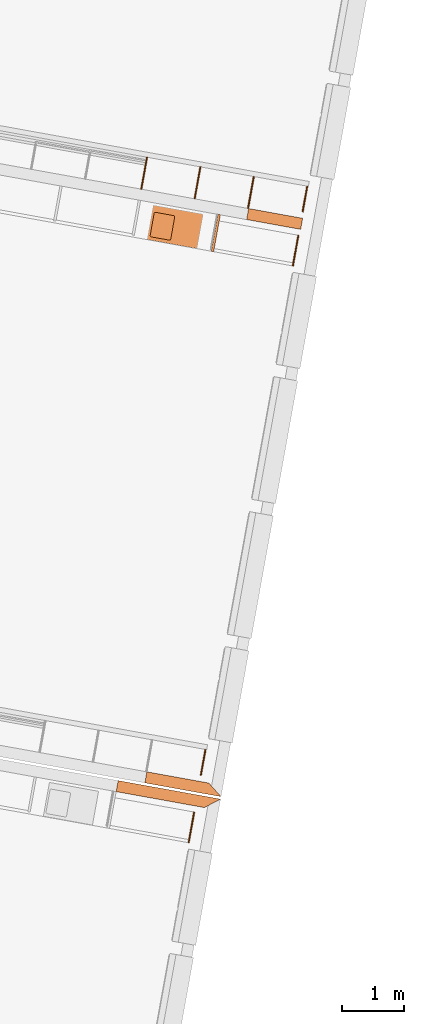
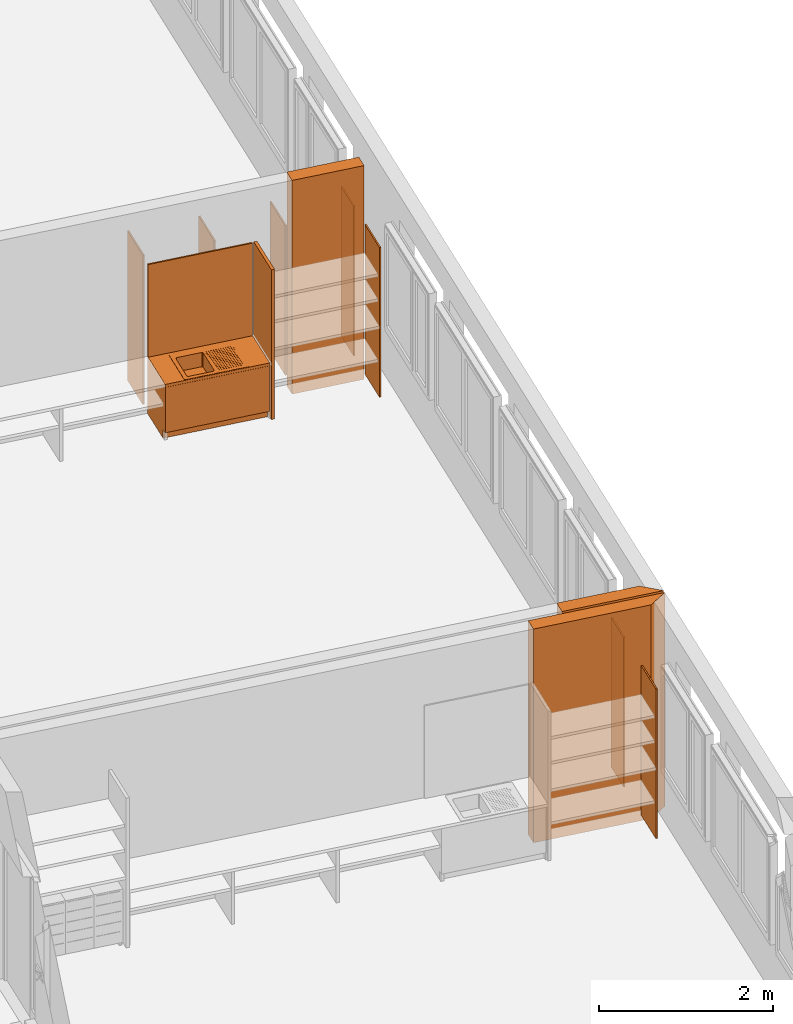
# One storey, part 23 of 52: 12 proxies.
"""IFC2X3 building model written with IfcOpenShell, lengths in metres."""

from ifc_helpers import new_model, entity, si_unit, converted_unit, derived_unit, money_unit, direction, frame, origin_with_axes, place, context, subcontext, project, spatial, polyline, outline, extrude, open_shell, faceted_brep, surface_model, source, transform, mapped, material, type_object, element, save


model = new_model("IFC2X3")

# Units and contexts
model_context = context("Model", 3, precision=1e-05, world=origin_with_axes(), true_north=direction((0.0, 1.0)))
body_context = subcontext(model_context, "Body", "Model", "MODEL_VIEW")
ifc_project = project(units=[si_unit("LENGTHUNIT", "METRE"), si_unit("AREAUNIT", "SQUARE_METRE"), si_unit("VOLUMEUNIT", "CUBIC_METRE"), converted_unit("PLANEANGLEUNIT", "DEGREE", entity("IfcPlaneAngleMeasure", 0.0174532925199), si_unit("PLANEANGLEUNIT", "RADIAN"), dimensions=[0, 0, 0, 0, 0, 0, 0]), money_unit("CHF"), converted_unit("TIMEUNIT", "Year", entity("IfcTimeMeasure", 31556926.0), si_unit("TIMEUNIT", "SECOND"), dimensions=[0, 0, 1, 0, 0, 0, 0]), si_unit("MASSUNIT", "GRAM", prefix="KILO"), si_unit("THERMODYNAMICTEMPERATUREUNIT", "DEGREE_CELSIUS"), si_unit("LUMINOUSINTENSITYUNIT", "LUMEN"), si_unit("ENERGYUNIT", "JOULE", prefix="MEGA"), derived_unit("THERMALCONDUCTANCEUNIT", [(si_unit("POWERUNIT", "WATT"), 1), (si_unit("LENGTHUNIT", "METRE"), -1), (si_unit("THERMODYNAMICTEMPERATUREUNIT", "KELVIN"), -1)]), derived_unit("SPECIFICHEATCAPACITYUNIT", [(si_unit("ENERGYUNIT", "JOULE"), 1), (si_unit("MASSUNIT", "GRAM", prefix="KILO"), -1), (si_unit("THERMODYNAMICTEMPERATUREUNIT", "KELVIN"), -1)]), derived_unit("MASSDENSITYUNIT", [(si_unit("MASSUNIT", "GRAM", prefix="KILO"), 1), (si_unit("VOLUMEUNIT", "CUBIC_METRE"), -1)])], contexts=[model_context])

# Site, building, storey
site_placement = place(None, frame((0.0, 0.0, 0.0), z_axis=(0.0, 0.0, 1.0), x_axis=(-0.177771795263, -0.984071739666, 0.0)))
site = spatial("IfcSite", under=ifc_project, at=site_placement, Name="Site", CompositionType="ELEMENT")
building_placement = place(site_placement, origin_with_axes())
building = spatial("IfcBuilding", under=site, at=building_placement, Name="Bâtiment", CompositionType="ELEMENT")
storey_placement = place(building_placement, frame((0.0, 0.0, 3.2), z_axis=(0.0, 0.0, 1.0), x_axis=(1.0, 0.0, 0.0)))
storey = spatial("IfcBuildingStorey", under=building, at=storey_placement, Name="R+1", CompositionType="ELEMENT", Elevation=3.2)

# Proxies
ifc_material_1 = material(Name="_panneau mélaminé")
building_element_proxy_type_1 = type_object("IfcBuildingElementProxyType", Name="_panneau mélaminé 40", PredefinedType="NOTDEFINED")
proxy_1_placement = place(storey_placement, frame((119.884841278, -149.826151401, 0.0), z_axis=(0.0, 0.0, 1.0), x_axis=(-1.0, 0.0, 0.0)))
element("IfcBuildingElementProxy", 1, at=proxy_1_placement, inside=storey, type_object=building_element_proxy_type_1, material=ifc_material_1, Name="cloison-fd-classe D", context=body_context, shape_type="SweptSolid", body=[
    extrude(outline(polyline([(0.0, -0.04), (0.600000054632, -0.04), (0.600000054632, 0.0), (0.0, 0.0), (0.0, -0.04)])), origin_with_axes(), (0.0, 0.0, 1.0), 2.1),
])
building_element_proxy_type_2 = type_object("IfcBuildingElementProxyType", Name="_panneau mélaminé 19", PredefinedType="NOTDEFINED")
proxy_2_placement = place(storey_placement, frame((119.10484124, -150.237651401, 0.0), z_axis=(0.0, 0.0, 1.0), x_axis=(-1.0, 0.0, 0.0)))
element("IfcBuildingElementProxy", 2, at=proxy_2_placement, inside=storey, type_object=building_element_proxy_type_2, material=ifc_material_1, Name="cloison pl-classe", context=body_context, shape_type="SweptSolid", body=[
    extrude(outline(polyline([(0.0, -0.0095), (0.519999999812, -0.0095), (0.519999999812, 0.0095), (0.0, 0.0095), (0.0, -0.0095)])), origin_with_axes(), (0.0, 0.0, 1.0), 2.1),
])
proxy_3_placement = place(storey_placement, frame((129.284841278, -148.506151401, 0.0), z_axis=(0.0, 0.0, 1.0), x_axis=(-1.0, 0.0, 0.0)))
element("IfcBuildingElementProxy", 3, at=proxy_3_placement, inside=storey, type_object=building_element_proxy_type_2, material=ifc_material_1, Name="cloison-fd-classe D", context=body_context, shape_type="SweptSolid", body=[
    extrude(outline(polyline([(0.0, -0.019), (0.500000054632, -0.019), (0.500000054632, 0.0), (0.0, 0.0), (0.0, -0.019)])), origin_with_axes(), (0.0, 0.0, 1.0), 2.1),
])
for number, where, z_axis, x_axis, name in (
    (4, (128.184841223, -148.506151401, 0.0), (0.0, 0.0, 1.0), (-1.0, 0.0, 0.0), "cloison pl-classe"),
    (5, (119.004841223, -148.506151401, 0.0), (0.0, 0.0, 1.0), (-1.0, 0.0, 0.0), "cloison pl-classe"),
):
    element("IfcBuildingElementProxy", number, at=place(storey_placement, frame(where, z_axis=z_axis, x_axis=x_axis)), inside=storey, type_object=building_element_proxy_type_2, material=ifc_material_1, Name=name, context=body_context, shape_type="SweptSolid", body=[
        extrude(outline(polyline([(0.0, -0.019), (0.419999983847, -0.019), (0.419999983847, 0.0), (0.0, 0.0), (0.0, -0.019)])), origin_with_axes(), (0.0, 0.0, 1.0), 2.1),
    ])
proxy_4_placement = place(storey_placement, frame((119.10484124, -149.367651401, 0.0), z_axis=(0.0, 0.0, 1.0), x_axis=(-1.0, 0.0, 0.0)))
element("IfcBuildingElementProxy", 6, at=proxy_4_placement, inside=storey, type_object=building_element_proxy_type_2, material=ifc_material_1, Name="cloison pl-classe", context=body_context, shape_type="SweptSolid", body=[
    extrude(outline(polyline([(0.0, -0.0095), (0.519999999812, -0.0095), (0.519999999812, 0.0095), (0.0, 0.0095), (0.0, -0.0095)])), origin_with_axes(), (0.0, 0.0, 1.0), 2.1),
])
proxy_5_placement = place(storey_placement, frame((119.104841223, -151.107651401, 0.0), z_axis=(0.0, 0.0, 1.0), x_axis=(-1.0, 0.0, 0.0)))
element("IfcBuildingElementProxy", 7, at=proxy_5_placement, inside=storey, type_object=building_element_proxy_type_2, material=ifc_material_1, Name="cloison pl-classe", context=body_context, shape_type="SweptSolid", body=[
    extrude(outline(polyline([(0.0, -0.0095), (0.519999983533, -0.0095), (0.519999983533, 0.0095), (0.0, 0.0095), (0.0, -0.0095)])), origin_with_axes(), (0.0, 0.0, 1.0), 2.1),
])
proxy_6_placement = place(storey_placement, frame((119.884841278, -148.506151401, 0.0), z_axis=(0.0, 0.0, 1.0), x_axis=(-1.0, 0.0, 0.0)))
element("IfcBuildingElementProxy", 8, at=proxy_6_placement, inside=storey, type_object=building_element_proxy_type_2, material=ifc_material_1, Name="cloison-fd-classe D", context=body_context, shape_type="SweptSolid", body=[
    extrude(outline(polyline([(0.0, -0.019), (0.500000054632, -0.019), (0.500000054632, 0.0), (0.0, 0.0), (0.0, -0.019)])), origin_with_axes(), (0.0, 0.0, 1.0), 2.1),
])
ifc_material_2 = material(Name="_BA banché RAL9007")
building_element_proxy_type_3 = type_object("IfcBuildingElementProxyType", Name="_M ext 18 +10 gris 280", PredefinedType="NOTDEFINED")
proxy_7_placement = place(storey_placement, frame((128.504841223, -149.786151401, -0.15), z_axis=(0.0, 0.0, 1.0), x_axis=(0.0, 1.0, 0.0)))
element("IfcBuildingElementProxy", 9, at=proxy_7_placement, inside=storey, type_object=building_element_proxy_type_3, material=ifc_material_2, Name="M retour_isol", context=body_context, shape_type="SweptSolid", body=[
    extrude(outline(polyline([(0.0, -0.18), (1.43757153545, -0.18), (1.66900010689, 0.0), (0.0, 0.0), (0.0, -0.18)])), origin_with_axes(), (0.0, 0.0, 1.0), 3.0),
])
proxy_8_placement = place(storey_placement, frame((128.464841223, -149.358151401, 0.0), z_axis=(0.0, 0.0, 1.0), x_axis=(0.0, 1.0, 0.0)))
element("IfcBuildingElementProxy", 10, at=proxy_8_placement, inside=storey, type_object=building_element_proxy_type_3, material=ifc_material_2, Name="M retour_isol", context=body_context, shape_type="SweptSolid", body=[
    extrude(outline(polyline([(0.0, 0.0), (1.24100000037, 0.0), (1.00957142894, 0.18), (0.0, 0.18), (0.0, 0.0)])), origin_with_axes(), (0.0, 0.0, 1.0), 2.85),
])
proxy_9_placement = place(storey_placement, frame((119.284841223, -149.358151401, -0.15), z_axis=(0.0, 0.0, 1.0), x_axis=(0.0, 1.0, 0.0)))
element("IfcBuildingElementProxy", 11, at=proxy_9_placement, inside=storey, type_object=building_element_proxy_type_3, material=ifc_material_2, Name="M retour_isol", context=body_context, shape_type="SweptSolid", body=[
    extrude(outline(polyline([(0.0, 0.0), (0.881000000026, 0.0), (0.88100000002, 0.18), (0.0, 0.18), (0.0, 0.0)])), origin_with_axes(), (0.0, 0.0, 1.0), 3.0),
])
ifc_material_3 = material(Name="Matériau de construction IFC")
building_element_proxy_type_4 = type_object("IfcBuildingElementProxyType", Name="Elément simple avec deux portes 21", PredefinedType="NOTDEFINED")
shared_shape = source(origin_with_axes(), body_context, "Body", "SurfaceModel", [
    surface_model("IfcShellBasedSurfaceModel", [(0.5, 0.600000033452, 0.733), (0.496505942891, 0.600000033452, 0.733460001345), (0.496505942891, 0.620000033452, 0.733460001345), (0.5, 0.620000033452, 0.733), (0.49325, 0.600000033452, 0.734808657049), (0.49325, 0.620000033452, 0.734808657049), (0.503494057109, 0.600000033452, 0.733460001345), (0.503494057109, 0.620000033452, 0.733460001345), (0.490454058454, 0.600000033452, 0.736954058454), (0.490454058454, 0.620000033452, 0.736954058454), (0.50675, 0.600000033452, 0.734808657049), (0.50675, 0.620000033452, 0.734808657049), (0.488308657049, 0.600000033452, 0.73975), (0.488308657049, 0.620000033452, 0.73975), (0.509545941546, 0.600000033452, 0.736954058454), (0.509545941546, 0.620000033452, 0.736954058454), (0.486960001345, 0.600000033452, 0.743005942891), (0.486960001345, 0.620000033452, 0.743005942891), (0.511691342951, 0.600000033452, 0.73975), (0.511691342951, 0.620000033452, 0.73975), (0.4865, 0.600000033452, 0.7465), (0.4865, 0.620000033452, 0.7465), (0.513039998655, 0.600000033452, 0.743005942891), (0.513039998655, 0.620000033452, 0.743005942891), (0.486960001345, 0.600000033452, 0.749994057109), (0.486960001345, 0.620000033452, 0.749994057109), (0.5135, 0.600000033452, 0.7465), (0.5135, 0.620000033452, 0.7465), (0.488308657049, 0.600000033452, 0.75325), (0.488308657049, 0.620000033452, 0.75325), (0.513039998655, 0.600000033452, 0.749994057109), (0.513039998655, 0.620000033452, 0.749994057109), (0.490454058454, 0.600000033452, 0.756045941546), (0.490454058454, 0.620000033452, 0.756045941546), (0.511691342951, 0.600000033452, 0.75325), (0.511691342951, 0.620000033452, 0.75325), (0.49325, 0.600000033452, 0.758191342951), (0.49325, 0.620000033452, 0.758191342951), (0.509545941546, 0.600000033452, 0.756045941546), (0.509545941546, 0.620000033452, 0.756045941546), (0.496505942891, 0.600000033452, 0.759539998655), (0.496505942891, 0.620000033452, 0.759539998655), (0.50675, 0.600000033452, 0.758191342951), (0.50675, 0.620000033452, 0.758191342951), (0.5, 0.600000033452, 0.76), (0.5, 0.620000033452, 0.76), (0.503494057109, 0.600000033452, 0.759539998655), (0.503494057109, 0.620000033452, 0.759539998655)], [open_shell([[[0, 1, 2, 3]], [[1, 4, 5, 2]], [[6, 0, 3, 7]], [[4, 8, 9, 5]], [[10, 6, 7, 11]], [[8, 12, 13, 9]], [[14, 10, 11, 15]], [[12, 16, 17, 13]], [[18, 14, 15, 19]], [[16, 20, 21, 17]], [[22, 18, 19, 23]], [[20, 24, 25, 21]], [[26, 22, 23, 27]], [[24, 28, 29, 25]], [[30, 26, 27, 31]], [[28, 32, 33, 29]], [[34, 30, 31, 35]], [[32, 36, 37, 33]], [[38, 34, 35, 39]], [[36, 40, 41, 37]], [[42, 38, 39, 43]], [[40, 44, 45, 41]], [[46, 42, 43, 47]], [[44, 46, 47, 45]]])]),
    surface_model("IfcShellBasedSurfaceModel", [(0.7, 0.600000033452, 0.733), (0.696505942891, 0.600000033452, 0.733460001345), (0.696505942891, 0.620000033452, 0.733460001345), (0.7, 0.620000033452, 0.733), (0.69325, 0.600000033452, 0.734808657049), (0.69325, 0.620000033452, 0.734808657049), (0.703494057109, 0.600000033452, 0.733460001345), (0.703494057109, 0.620000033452, 0.733460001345), (0.690454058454, 0.600000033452, 0.736954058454), (0.690454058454, 0.620000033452, 0.736954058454), (0.70675, 0.600000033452, 0.734808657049), (0.70675, 0.620000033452, 0.734808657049), (0.688308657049, 0.600000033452, 0.73975), (0.688308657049, 0.620000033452, 0.73975), (0.709545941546, 0.600000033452, 0.736954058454), (0.709545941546, 0.620000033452, 0.736954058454), (0.686960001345, 0.600000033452, 0.743005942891), (0.686960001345, 0.620000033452, 0.743005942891), (0.711691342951, 0.600000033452, 0.73975), (0.711691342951, 0.620000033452, 0.73975), (0.6865, 0.600000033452, 0.7465), (0.6865, 0.620000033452, 0.7465), (0.713039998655, 0.600000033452, 0.743005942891), (0.713039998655, 0.620000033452, 0.743005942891), (0.686960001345, 0.600000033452, 0.749994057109), (0.686960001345, 0.620000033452, 0.749994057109), (0.7135, 0.600000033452, 0.7465), (0.7135, 0.620000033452, 0.7465), (0.688308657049, 0.600000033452, 0.75325), (0.688308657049, 0.620000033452, 0.75325), (0.713039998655, 0.600000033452, 0.749994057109), (0.713039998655, 0.620000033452, 0.749994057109), (0.690454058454, 0.600000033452, 0.756045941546), (0.690454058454, 0.620000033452, 0.756045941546), (0.711691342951, 0.600000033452, 0.75325), (0.711691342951, 0.620000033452, 0.75325), (0.69325, 0.600000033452, 0.758191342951), (0.69325, 0.620000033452, 0.758191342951), (0.709545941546, 0.600000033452, 0.756045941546), (0.709545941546, 0.620000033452, 0.756045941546), (0.696505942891, 0.600000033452, 0.759539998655), (0.696505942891, 0.620000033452, 0.759539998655), (0.70675, 0.600000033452, 0.758191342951), (0.70675, 0.620000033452, 0.758191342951), (0.7, 0.600000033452, 0.76), (0.7, 0.620000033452, 0.76), (0.703494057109, 0.600000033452, 0.759539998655), (0.703494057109, 0.620000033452, 0.759539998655)], [open_shell([[[0, 1, 2, 3]], [[1, 4, 5, 2]], [[6, 0, 3, 7]], [[4, 8, 9, 5]], [[10, 6, 7, 11]], [[8, 12, 13, 9]], [[14, 10, 11, 15]], [[12, 16, 17, 13]], [[18, 14, 15, 19]], [[16, 20, 21, 17]], [[22, 18, 19, 23]], [[20, 24, 25, 21]], [[26, 22, 23, 27]], [[24, 28, 29, 25]], [[30, 26, 27, 31]], [[28, 32, 33, 29]], [[34, 30, 31, 35]], [[32, 36, 37, 33]], [[38, 34, 35, 39]], [[36, 40, 41, 37]], [[42, 38, 39, 43]], [[40, 44, 45, 41]], [[46, 42, 43, 47]], [[44, 46, 47, 45]]])]),
    surface_model("IfcShellBasedSurfaceModel", [(0.6, 0.600000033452, 0.579), (0.594564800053, 0.600000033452, 0.579715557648), (0.594564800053, 0.620000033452, 0.579715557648), (0.6, 0.620000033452, 0.579), (0.5895, 0.600000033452, 0.581813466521), (0.5895, 0.620000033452, 0.581813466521), (0.605435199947, 0.600000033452, 0.579715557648), (0.605435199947, 0.620000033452, 0.579715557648), (0.585150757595, 0.600000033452, 0.585150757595), (0.585150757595, 0.620000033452, 0.585150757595), (0.6105, 0.600000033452, 0.581813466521), (0.6105, 0.620000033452, 0.581813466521), (0.581813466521, 0.600000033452, 0.5895), (0.581813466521, 0.620000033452, 0.5895), (0.614849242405, 0.600000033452, 0.585150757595), (0.614849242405, 0.620000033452, 0.585150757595), (0.579715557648, 0.600000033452, 0.594564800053), (0.579715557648, 0.620000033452, 0.594564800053), (0.618186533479, 0.600000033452, 0.5895), (0.618186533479, 0.620000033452, 0.5895), (0.579, 0.600000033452, 0.6), (0.579, 0.620000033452, 0.6), (0.620284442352, 0.600000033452, 0.594564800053), (0.620284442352, 0.620000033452, 0.594564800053), (0.579715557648, 0.600000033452, 0.605435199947), (0.579715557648, 0.620000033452, 0.605435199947), (0.621, 0.600000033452, 0.6), (0.621, 0.620000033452, 0.6), (0.581813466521, 0.600000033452, 0.6105), (0.581813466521, 0.620000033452, 0.6105), (0.620284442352, 0.600000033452, 0.605435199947), (0.620284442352, 0.620000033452, 0.605435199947), (0.585150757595, 0.600000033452, 0.614849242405), (0.585150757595, 0.620000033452, 0.614849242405), (0.618186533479, 0.600000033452, 0.6105), (0.618186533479, 0.620000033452, 0.6105), (0.5895, 0.600000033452, 0.618186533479), (0.5895, 0.620000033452, 0.618186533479), (0.614849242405, 0.600000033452, 0.614849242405), (0.614849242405, 0.620000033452, 0.614849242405), (0.594564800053, 0.600000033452, 0.620284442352), (0.594564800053, 0.620000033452, 0.620284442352), (0.6105, 0.600000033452, 0.618186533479), (0.6105, 0.620000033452, 0.618186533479), (0.6, 0.600000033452, 0.621), (0.6, 0.620000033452, 0.621), (0.605435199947, 0.600000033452, 0.620284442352), (0.605435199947, 0.620000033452, 0.620284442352)], [open_shell([[[0, 1, 2, 3]], [[1, 4, 5, 2]], [[6, 0, 3, 7]], [[4, 8, 9, 5]], [[10, 6, 7, 11]], [[8, 12, 13, 9]], [[14, 10, 11, 15]], [[12, 16, 17, 13]], [[18, 14, 15, 19]], [[16, 20, 21, 17]], [[22, 18, 19, 23]], [[20, 24, 25, 21]], [[26, 22, 23, 27]], [[24, 28, 29, 25]], [[30, 26, 27, 31]], [[28, 32, 33, 29]], [[34, 30, 31, 35]], [[32, 36, 37, 33]], [[38, 34, 35, 39]], [[36, 40, 41, 37]], [[42, 38, 39, 43]], [[40, 44, 45, 41]], [[46, 42, 43, 47]], [[44, 46, 47, 45]]])]),
    faceted_brep([(0.0, 0.07, 0.0), (1.278, 0.07, 0.0), (1.278, 0.07, 0.12), (0.0, 0.07, 0.12), (0.0, 0.600000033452, 0.0), (1.278, 0.600000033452, 0.0), (1.278, 0.600000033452, 0.12), (0.0, 0.600000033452, 0.12)], [[[0, 1, 2, 3]], [[0, 4, 5, 1]], [[1, 5, 6, 2]], [[3, 2, 6, 7]], [[4, 0, 3, 7]], [[5, 4, 7, 6]]]),
    faceted_brep([(0.0, 0.02, 0.12), (0.02, 0.02, 0.12), (0.02, 0.02, 0.14), (0.0, 0.02, 0.14), (0.0, 0.600000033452, 0.12), (0.02, 0.600000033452, 0.12), (1.258, 0.600000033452, 0.12), (1.278, 0.600000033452, 0.12), (1.278, 0.02, 0.12), (1.258, 0.02, 0.12), (1.258, 0.02, 0.14), (1.278, 0.02, 0.14), (1.278, 0.600000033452, 0.14), (1.258, 0.600000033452, 0.14), (0.02, 0.600000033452, 0.14), (0.0, 0.600000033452, 0.14)], [[[0, 1, 2, 3]], [[0, 4, 5, 6, 7, 8, 9, 1]], [[1, 9, 10, 2]], [[3, 2, 10, 11, 12, 13, 14, 15]], [[4, 0, 3, 15]], [[5, 4, 15, 14]], [[6, 5, 14, 13]], [[7, 6, 13, 12]], [[8, 7, 12, 11]], [[9, 8, 11, 10]]]),
    faceted_brep([(0.0, 0.02, 0.14), (0.02, 0.02, 0.14), (0.02, 0.02, 0.76), (0.0, 0.02, 0.76), (0.0, 0.600000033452, 0.14), (1.278, 0.600000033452, 0.14), (1.278, 0.02, 0.14), (1.258, 0.02, 0.14), (1.258, 0.580000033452, 0.14), (0.02, 0.580000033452, 0.14), (0.02, 0.580000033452, 0.76), (1.258, 0.580000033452, 0.76), (1.258, 0.02, 0.76), (1.278, 0.02, 0.76), (1.278, 0.600000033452, 0.76), (0.0, 0.600000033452, 0.76)], [[[0, 1, 2, 3]], [[0, 4, 5, 6, 7, 8, 9, 1]], [[1, 9, 10, 2]], [[3, 2, 10, 11, 12, 13, 14, 15]], [[4, 0, 3, 15]], [[5, 4, 15, 14]], [[6, 5, 14, 13]], [[7, 6, 13, 12]], [[8, 7, 12, 11]], [[9, 8, 11, 10]]]),
    faceted_brep([(1.258, 0.02, 0.41), (1.258, 0.580000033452, 0.41), (1.258, 0.580000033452, 0.43), (1.258, 0.02, 0.43), (0.02, 0.02, 0.41), (0.02, 0.580000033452, 0.41), (0.02, 0.580000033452, 0.43), (0.02, 0.02, 0.43)], [[[0, 1, 2, 3]], [[0, 4, 5, 1]], [[1, 5, 6, 2]], [[3, 2, 6, 7]], [[4, 0, 3, 7]], [[5, 4, 7, 6]]]),
    surface_model("IfcShellBasedSurfaceModel", [(0.309, 0.0550000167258, 0.605), (0.604, 0.0550000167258, 0.605), (0.604, 0.0550000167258, 0.8), (0.309, 0.0550000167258, 0.8), (0.299, 0.0576795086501, 0.605), (0.291679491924, 0.0650000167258, 0.605), (0.289, 0.0750000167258, 0.605), (0.289, 0.435000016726, 0.605), (0.291679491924, 0.445000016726, 0.605), (0.299, 0.452320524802, 0.605), (0.309, 0.455000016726, 0.605), (0.604, 0.455000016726, 0.605), (0.614, 0.452320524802, 0.605), (0.621320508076, 0.445000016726, 0.605), (0.624, 0.435000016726, 0.605), (0.624, 0.0750000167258, 0.605), (0.618142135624, 0.0608578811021, 0.605), (0.618142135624, 0.0608578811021, 0.8), (0.299, 0.0576795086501, 0.8), (0.291679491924, 0.0650000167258, 0.8), (0.289, 0.0750000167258, 0.8), (0.289, 0.435000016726, 0.8), (0.291679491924, 0.445000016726, 0.8), (0.299, 0.452320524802, 0.8), (0.309, 0.455000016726, 0.8), (0.604, 0.455000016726, 0.8), (0.614, 0.452320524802, 0.8), (0.621320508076, 0.445000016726, 0.8), (0.624, 0.435000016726, 0.8), (0.624, 0.0750000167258, 0.8)], [open_shell([[[0, 1, 2, 3]], [[0, 4, 5, 6, 7, 8, 9, 10, 11, 12, 13, 14, 15, 16, 1]], [[1, 16, 17, 2]], [[4, 0, 3, 18]], [[5, 4, 18, 19]], [[6, 5, 19, 20]], [[7, 6, 20, 21]], [[8, 7, 21, 22]], [[9, 8, 22, 23]], [[10, 9, 23, 24]], [[11, 10, 24, 25]], [[12, 11, 25, 26]], [[13, 12, 26, 27]], [[14, 13, 27, 28]], [[15, 14, 28, 29]], [[16, 15, 29, 17]]])]),
    faceted_brep([(0.259, 0.00500001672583, 0.8), (1.019, 0.00500001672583, 0.8), (1.019, 0.00500001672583, 0.805), (0.259, 0.00500001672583, 0.805), (0.249, 0.00767950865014, 0.8), (0.241679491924, 0.0150000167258, 0.8), (0.239, 0.0250000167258, 0.8), (0.239, 0.535000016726, 0.8), (0.241679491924, 0.545000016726, 0.8), (0.249, 0.552320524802, 0.8), (0.259, 0.555000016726, 0.8), (1.019, 0.555000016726, 0.8), (1.029, 0.552320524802, 0.8), (1.03632050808, 0.545000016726, 0.8), (1.039, 0.535000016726, 0.8), (1.039, 0.0250000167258, 0.8), (1.03314213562, 0.0108578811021, 0.8), (0.309, 0.0550000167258, 0.8), (0.604, 0.0550000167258, 0.8), (0.618142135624, 0.0608578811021, 0.8), (0.624, 0.0750000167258, 0.8), (0.624, 0.435000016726, 0.8), (0.621320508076, 0.445000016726, 0.8), (0.614, 0.452320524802, 0.8), (0.604, 0.455000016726, 0.8), (0.309, 0.455000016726, 0.8), (0.299, 0.452320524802, 0.8), (0.291679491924, 0.445000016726, 0.8), (0.289, 0.435000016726, 0.8), (0.289, 0.0750000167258, 0.8), (0.291679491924, 0.0650000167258, 0.8), (0.299, 0.0576795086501, 0.8), (1.03314213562, 0.0108578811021, 0.805), (1.039, 0.0250000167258, 0.805), (1.039, 0.535000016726, 0.805), (1.03632050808, 0.545000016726, 0.805), (1.029, 0.552320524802, 0.805), (1.019, 0.555000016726, 0.805), (0.259, 0.555000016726, 0.805), (0.249, 0.552320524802, 0.805), (0.241679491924, 0.545000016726, 0.805), (0.239, 0.535000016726, 0.805), (0.239, 0.0250000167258, 0.805), (0.241679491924, 0.0150000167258, 0.805), (0.249, 0.00767950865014, 0.805), (0.309, 0.0550000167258, 0.805), (0.299, 0.0576795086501, 0.805), (0.291679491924, 0.0650000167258, 0.805), (0.289, 0.0750000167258, 0.805), (0.289, 0.435000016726, 0.805), (0.291679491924, 0.445000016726, 0.805), (0.299, 0.452320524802, 0.805), (0.309, 0.455000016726, 0.805), (0.604, 0.455000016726, 0.805), (0.614, 0.452320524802, 0.805), (0.621320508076, 0.445000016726, 0.805), (0.624, 0.435000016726, 0.805), (0.624, 0.0750000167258, 0.805), (0.618142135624, 0.0608578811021, 0.805), (0.604, 0.0550000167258, 0.805)], [[[0, 1, 2, 3]], [[0, 4, 5, 6, 7, 8, 9, 10, 11, 12, 13, 14, 15, 16, 1], [17, 18, 19, 20, 21, 22, 23, 24, 25, 26, 27, 28, 29, 30, 31]], [[1, 16, 32, 2]], [[3, 2, 32, 33, 34, 35, 36, 37, 38, 39, 40, 41, 42, 43, 44], [45, 46, 47, 48, 49, 50, 51, 52, 53, 54, 55, 56, 57, 58, 59]], [[4, 0, 3, 44]], [[5, 4, 44, 43]], [[6, 5, 43, 42]], [[7, 6, 42, 41]], [[8, 7, 41, 40]], [[9, 8, 40, 39]], [[10, 9, 39, 38]], [[11, 10, 38, 37]], [[12, 11, 37, 36]], [[13, 12, 36, 35]], [[14, 13, 35, 34]], [[15, 14, 34, 33]], [[16, 15, 33, 32]], [[18, 17, 45, 59]], [[19, 18, 59, 58]], [[20, 19, 58, 57]], [[21, 20, 57, 56]], [[22, 21, 56, 55]], [[23, 22, 55, 54]], [[24, 23, 54, 53]], [[25, 24, 53, 52]], [[26, 25, 52, 51]], [[27, 26, 51, 50]], [[28, 27, 50, 49]], [[29, 28, 49, 48]], [[30, 29, 48, 47]], [[31, 30, 47, 46]], [[17, 31, 46, 45]]]),
    faceted_brep([(0.654, 0.0600000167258, 0.805), (0.959, 0.0600000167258, 0.805), (0.959, 0.0600000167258, 0.807), (0.654, 0.0600000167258, 0.807), (0.654, 0.0650000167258, 0.805), (0.959, 0.0650000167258, 0.805), (0.959, 0.0650000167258, 0.807), (0.654, 0.0650000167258, 0.807)], [[[0, 1, 2, 3]], [[0, 4, 5, 1]], [[1, 5, 6, 2]], [[3, 2, 6, 7]], [[4, 0, 3, 7]], [[5, 4, 7, 6]]]),
    faceted_brep([(0.654, 0.0925000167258, 0.805), (0.989, 0.0925000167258, 0.805), (0.989, 0.0925000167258, 0.807), (0.654, 0.0925000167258, 0.807), (0.654, 0.0975000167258, 0.805), (0.989, 0.0975000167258, 0.805), (0.989, 0.0975000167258, 0.807), (0.654, 0.0975000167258, 0.807)], [[[0, 1, 2, 3]], [[0, 4, 5, 1]], [[1, 5, 6, 2]], [[3, 2, 6, 7]], [[4, 0, 3, 7]], [[5, 4, 7, 6]]]),
    faceted_brep([(0.654, 0.125000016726, 0.805), (0.989, 0.125000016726, 0.805), (0.989, 0.125000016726, 0.807), (0.654, 0.125000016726, 0.807), (0.654, 0.130000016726, 0.805), (0.989, 0.130000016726, 0.805), (0.989, 0.130000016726, 0.807), (0.654, 0.130000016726, 0.807)], [[[0, 1, 2, 3]], [[0, 4, 5, 1]], [[1, 5, 6, 2]], [[3, 2, 6, 7]], [[4, 0, 3, 7]], [[5, 4, 7, 6]]]),
    faceted_brep([(0.654, 0.157500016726, 0.805), (0.989, 0.157500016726, 0.805), (0.989, 0.157500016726, 0.807), (0.654, 0.157500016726, 0.807), (0.654, 0.162500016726, 0.805), (0.989, 0.162500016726, 0.805), (0.989, 0.162500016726, 0.807), (0.654, 0.162500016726, 0.807)], [[[0, 1, 2, 3]], [[0, 4, 5, 1]], [[1, 5, 6, 2]], [[3, 2, 6, 7]], [[4, 0, 3, 7]], [[5, 4, 7, 6]]]),
    faceted_brep([(0.654, 0.190000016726, 0.805), (0.989, 0.190000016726, 0.805), (0.989, 0.190000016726, 0.807), (0.654, 0.190000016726, 0.807), (0.654, 0.195000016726, 0.805), (0.989, 0.195000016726, 0.805), (0.989, 0.195000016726, 0.807), (0.654, 0.195000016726, 0.807)], [[[0, 1, 2, 3]], [[0, 4, 5, 1]], [[1, 5, 6, 2]], [[3, 2, 6, 7]], [[4, 0, 3, 7]], [[5, 4, 7, 6]]]),
    faceted_brep([(0.654, 0.222500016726, 0.805), (0.989, 0.222500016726, 0.805), (0.989, 0.222500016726, 0.807), (0.654, 0.222500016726, 0.807), (0.654, 0.227500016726, 0.805), (0.989, 0.227500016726, 0.805), (0.989, 0.227500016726, 0.807), (0.654, 0.227500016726, 0.807)], [[[0, 1, 2, 3]], [[0, 4, 5, 1]], [[1, 5, 6, 2]], [[3, 2, 6, 7]], [[4, 0, 3, 7]], [[5, 4, 7, 6]]]),
    faceted_brep([(0.654, 0.255000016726, 0.805), (0.989, 0.255000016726, 0.805), (0.989, 0.255000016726, 0.807), (0.654, 0.255000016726, 0.807), (0.654, 0.260000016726, 0.805), (0.989, 0.260000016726, 0.805), (0.989, 0.260000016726, 0.807), (0.654, 0.260000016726, 0.807)], [[[0, 1, 2, 3]], [[0, 4, 5, 1]], [[1, 5, 6, 2]], [[3, 2, 6, 7]], [[4, 0, 3, 7]], [[5, 4, 7, 6]]]),
    faceted_brep([(0.654, 0.287500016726, 0.805), (0.989, 0.287500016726, 0.805), (0.989, 0.287500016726, 0.807), (0.654, 0.287500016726, 0.807), (0.654, 0.292500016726, 0.805), (0.989, 0.292500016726, 0.805), (0.989, 0.292500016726, 0.807), (0.654, 0.292500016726, 0.807)], [[[0, 1, 2, 3]], [[0, 4, 5, 1]], [[1, 5, 6, 2]], [[3, 2, 6, 7]], [[4, 0, 3, 7]], [[5, 4, 7, 6]]]),
    faceted_brep([(0.654, 0.320000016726, 0.805), (0.989, 0.320000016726, 0.805), (0.989, 0.320000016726, 0.807), (0.654, 0.320000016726, 0.807), (0.654, 0.325000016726, 0.805), (0.989, 0.325000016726, 0.805), (0.989, 0.325000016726, 0.807), (0.654, 0.325000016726, 0.807)], [[[0, 1, 2, 3]], [[0, 4, 5, 1]], [[1, 5, 6, 2]], [[3, 2, 6, 7]], [[4, 0, 3, 7]], [[5, 4, 7, 6]]]),
    faceted_brep([(0.654, 0.352500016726, 0.805), (0.989, 0.352500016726, 0.805), (0.989, 0.352500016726, 0.807), (0.654, 0.352500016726, 0.807), (0.654, 0.357500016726, 0.805), (0.989, 0.357500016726, 0.805), (0.989, 0.357500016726, 0.807), (0.654, 0.357500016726, 0.807)], [[[0, 1, 2, 3]], [[0, 4, 5, 1]], [[1, 5, 6, 2]], [[3, 2, 6, 7]], [[4, 0, 3, 7]], [[5, 4, 7, 6]]]),
    faceted_brep([(0.654, 0.385000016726, 0.805), (0.989, 0.385000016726, 0.805), (0.989, 0.385000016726, 0.807), (0.654, 0.385000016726, 0.807), (0.654, 0.390000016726, 0.805), (0.989, 0.390000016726, 0.805), (0.989, 0.390000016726, 0.807), (0.654, 0.390000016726, 0.807)], [[[0, 1, 2, 3]], [[0, 4, 5, 1]], [[1, 5, 6, 2]], [[3, 2, 6, 7]], [[4, 0, 3, 7]], [[5, 4, 7, 6]]]),
    faceted_brep([(0.654, 0.417500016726, 0.805), (0.989, 0.417500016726, 0.805), (0.989, 0.417500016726, 0.807), (0.654, 0.417500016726, 0.807), (0.654, 0.422500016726, 0.805), (0.989, 0.422500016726, 0.805), (0.989, 0.422500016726, 0.807), (0.654, 0.422500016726, 0.807)], [[[0, 1, 2, 3]], [[0, 4, 5, 1]], [[1, 5, 6, 2]], [[3, 2, 6, 7]], [[4, 0, 3, 7]], [[5, 4, 7, 6]]]),
    faceted_brep([(0.654, 0.450000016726, 0.805), (0.959, 0.450000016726, 0.805), (0.959, 0.450000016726, 0.807), (0.654, 0.450000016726, 0.807), (0.654, 0.455000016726, 0.805), (0.959, 0.455000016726, 0.805), (0.959, 0.455000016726, 0.807), (0.654, 0.455000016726, 0.807)], [[[0, 1, 2, 3]], [[0, 4, 5, 1]], [[1, 5, 6, 2]], [[3, 2, 6, 7]], [[4, 0, 3, 7]], [[5, 4, 7, 6]]]),
    faceted_brep([(0.0, 0.0, 0.76), (1.278, 0.0, 0.76), (1.278, 0.0, 0.8), (0.0, 0.0, 0.8), (0.0, 0.600000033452, 0.76), (1.278, 0.600000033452, 0.76), (0.264, 0.0500000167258, 0.76), (1.014, 0.0500000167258, 0.76), (1.014, 0.535000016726, 0.76), (0.264, 0.535000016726, 0.76), (1.278, 0.600000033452, 0.8), (0.0, 0.600000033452, 0.8), (0.264, 0.0500000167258, 0.8), (0.264, 0.535000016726, 0.8), (1.014, 0.535000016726, 0.8), (1.014, 0.0500000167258, 0.8)], [[[0, 1, 2, 3]], [[0, 4, 5, 1], [6, 7, 8, 9]], [[1, 5, 10, 2]], [[3, 2, 10, 11], [12, 13, 14, 15]], [[4, 0, 3, 11]], [[5, 4, 11, 10]], [[7, 6, 12, 15]], [[8, 7, 15, 14]], [[9, 8, 14, 13]], [[6, 9, 13, 12]]]),
    faceted_brep([(0.0, 0.580000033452, 0.8), (1.278, 0.580000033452, 0.8), (1.278, 0.580000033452, 2.1), (0.0, 0.580000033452, 2.1), (0.0, 0.600000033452, 0.8), (1.278, 0.600000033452, 0.8), (1.278, 0.600000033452, 2.1), (0.0, 0.600000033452, 2.1)], [[[0, 1, 2, 3]], [[0, 4, 5, 1]], [[1, 5, 6, 2]], [[3, 2, 6, 7]], [[4, 0, 3, 7]], [[5, 4, 7, 6]]]),
    faceted_brep([(0.0015, 0.02, 0.1215), (0.6375, 0.02, 0.1215), (0.6375, 0.0, 0.1215), (0.0015, 0.0, 0.1215), (0.0015, 0.02, 0.7585), (0.6375, 0.02, 0.7585), (0.6375, 0.0, 0.7585), (0.0015, 0.0, 0.7585)], [[[0, 1, 2, 3]], [[0, 4, 5, 1]], [[1, 5, 6, 2]], [[3, 2, 6, 7]], [[4, 0, 3, 7]], [[5, 4, 7, 6]]]),
    faceted_brep([(1.2765, 0.02, 0.1215), (1.2765, 0.0, 0.1215), (0.6405, 0.0, 0.1215), (0.6405, 0.02, 0.1215), (1.2765, 0.02, 0.7585), (1.2765, 0.0, 0.7585), (0.6405, 0.0, 0.7585), (0.6405, 0.02, 0.7585)], [[[0, 1, 2, 3]], [[4, 5, 1, 0]], [[1, 5, 6, 2]], [[3, 2, 6, 7]], [[0, 3, 7, 4]], [[7, 6, 5, 4]]]),
])
proxy_10_placement = place(storey_placement, frame((119.88484124, -151.124151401, 0.0), z_axis=(0.0, 0.0, 1.0), x_axis=(0.0, 1.0, 0.0)))
element("IfcBuildingElementProxy", 12, at=proxy_10_placement, inside=storey, type_object=building_element_proxy_type_4, material=ifc_material_3, Name="evier-classe", context=body_context, shape_type="MappedRepresentation", body=[
    mapped(shared_shape, transform((0.0, 0.0, 0.0))),
])

save(model, "model.ifc")
